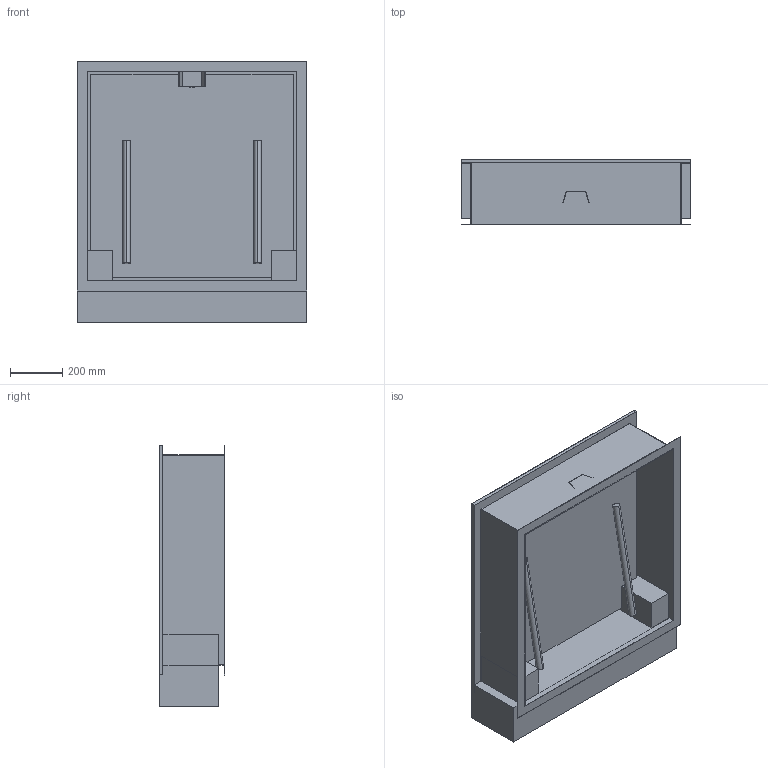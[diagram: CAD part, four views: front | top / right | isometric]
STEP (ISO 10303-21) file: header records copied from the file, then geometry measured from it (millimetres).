
FILE_DESCRIPTION((''),'2;1');
FILE_NAME('51553732','2020-11-06T10:53:41',('hrl'),('HUBER SE'),'CREO PARAMETRIC BY PTC INC, 2019224','CREO PARAMETRIC BY PTC INC, 2019224','');
FILE_SCHEMA(('AUTOMOTIVE_DESIGN { 1 0 10303 214 1 1 1 1 }'));
Length unit declared in the file: millimetre
Products named in the file (1): 51553732
Bounding box: 878 x 250 x 1000 mm (x, y, z)
Volume: 77617855.9 mm3; surface area: 4220116.6 mm2
Topology: 3 solids, 3 shells, 74 faces, 192 edges, 126 vertices
Faces by surface type: plane 64, cylinder 10
Entity records: 2847 total; most frequent: CARTESIAN_POINT 394, ORIENTED_EDGE 384, DIRECTION 364, EDGE_CURVE 192, VECTOR 168, LINE 168, VERTEX_POINT 126, COLOUR_RGB 106
